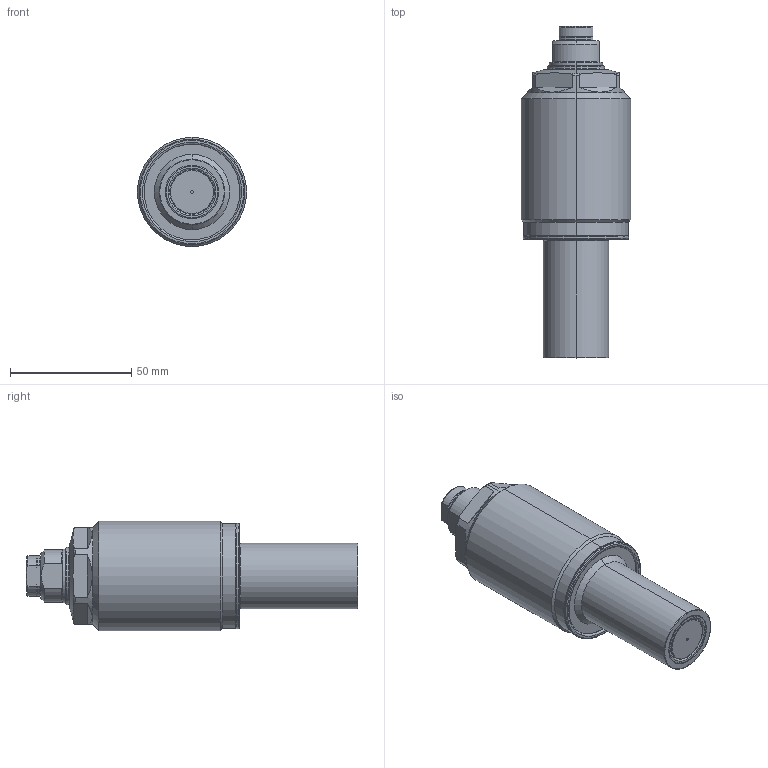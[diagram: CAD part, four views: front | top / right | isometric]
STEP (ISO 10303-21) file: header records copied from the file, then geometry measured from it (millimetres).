
FILE_DESCRIPTION(/* description */ (''),/* implementation_level */ '2;1');
FILE_NAME(/* name */ 'GSC06-Q.stp',/* time_stamp */ '2025-01-05T12:38:38+08:00',/* author */ (''),/* organization */ (''),/* preprocessor_version */ 'ST-DEVELOPER v16.7',/* originating_system */ 'SIEMENS PLM Software NX 12.0',/* authorisation */ '');
FILE_SCHEMA (('AUTOMOTIVE_DESIGN { 1 0 10303 214 3 1 1 1 }'));
Length unit declared in the file: millimetre
Products named in the file (8): AS012; TNC0403_ContactBolt_M12; GSC06-Q-05; GSC06-Q-04; GSC06-Q-03; GSC06-Q-01; GSC06-Q-02; TNC1603-Q_step
Assembly tree (7 placements, depth 3):
  TNC1603-Q_step
    GSC06-Q-01
    GSC06-Q-02
      TNC0403_ContactBolt_M12
      AS012
    GSC06-Q-03
    GSC06-Q-04
    GSC06-Q-05
Bounding box: 45 x 136.9 x 45 mm (x, y, z)
Volume: 135647.9 mm3; surface area: 24876.6 mm2
Topology: 6 solids, 6 shells, 161 faces, 358 edges, 217 vertices
Faces by surface type: torus 49, cylinder 47, plane 37, cone 26, sphere 2
Entity records: 5013 total; most frequent: CARTESIAN_POINT 1162, DIRECTION 865, ORIENTED_EDGE 716, AXIS2_PLACEMENT_3D 384, EDGE_CURVE 358, VERTEX_POINT 217, CIRCLE 215, EDGE_LOOP 177
